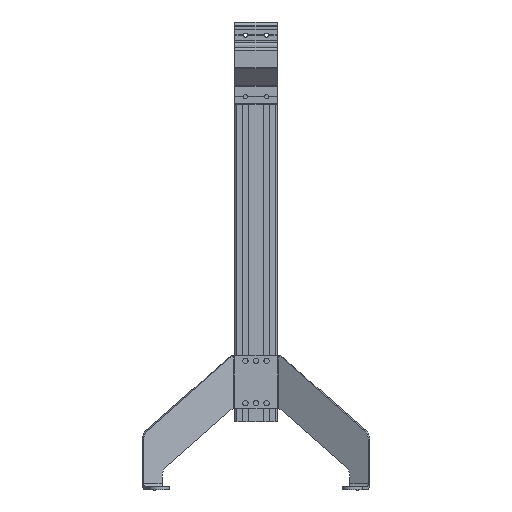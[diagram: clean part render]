
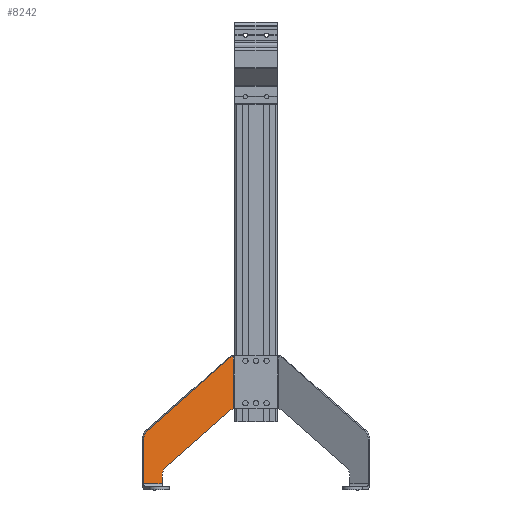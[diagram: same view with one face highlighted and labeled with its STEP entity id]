
A CAD part, left-side view. The second image highlights one B-rep face of the part: STEP entity #8242.
In plain terms, the highlighted planar face has unit normal (-0.866, -0.5, 0) as drawn and (0, 0, -1) by its records, which use the part's own axes.
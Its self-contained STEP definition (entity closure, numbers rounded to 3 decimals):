
#7787=CARTESIAN_POINT('',(44.524,45.482,-2.5));
#7788=VERTEX_POINT('',#7787);
#7997=CARTESIAN_POINT('',(44.524,145.482,-2.5));
#7998=VERTEX_POINT('',#7997);
#8048=CARTESIAN_POINT('',(44.524,45.482,-2.5));
#8049=DIRECTION('',(0.0,1.0,0.0));
#8050=VECTOR('',#8049,100.);
#8051=LINE('',#8048,#8050);
#8052=EDGE_CURVE('',#7788,#7998,#8051,.T.);
#8066=CARTESIAN_POINT('',(52.169,41.872,-2.5));
#8067=VERTEX_POINT('',#8066);
#8068=CARTESIAN_POINT('',(40.0,26.,-2.5));
#8069=DIRECTION('',(0.0,0.0,-1.0));
#8070=DIRECTION('',(-0.608,-0.794,0.0));
#8071=AXIS2_PLACEMENT_3D('',#8068,#8069,#8070);
#8072=CIRCLE('',#8071,20.0);
#8073=EDGE_CURVE('',#7788,#8067,#8072,.T.);
#8168=CARTESIAN_POINT('',(0.,2.612,-2.5));
#8169=DIRECTION('',(0.0,0.0,1.0));
#8170=DIRECTION('',(1.0,0.0,0.0));
#8171=AXIS2_PLACEMENT_3D('',#8168,#8169,#8170);
#8172=PLANE('',#8171);
#8173=ORIENTED_EDGE('',*,*,#8052,.T.);
#8174=CARTESIAN_POINT('',(52.169,141.872,-2.5));
#8175=VERTEX_POINT('',#8174);
#8176=CARTESIAN_POINT('',(40.,126.,-2.5));
#8177=DIRECTION('',(0.0,0.0,1.));
#8178=DIRECTION('',(0.608,0.794,0.0));
#8179=AXIS2_PLACEMENT_3D('',#8176,#8177,#8178);
#8180=CIRCLE('',#8179,20.);
#8181=EDGE_CURVE('',#8175,#7998,#8180,.T.);
#8182=ORIENTED_EDGE('',*,*,#8181,.F.);
#8183=CARTESIAN_POINT('',(232.169,3.872,-2.5));
#8184=VERTEX_POINT('',#8183);
#8185=CARTESIAN_POINT('',(232.169,3.872,-2.5));
#8186=DIRECTION('',(-0.794,0.608,0.0));
#8187=VECTOR('',#8186,226.813);
#8188=LINE('',#8185,#8187);
#8189=EDGE_CURVE('',#8184,#8175,#8188,.T.);
#8190=ORIENTED_EDGE('',*,*,#8189,.F.);
#8191=CARTESIAN_POINT('',(240.0,-12.,-2.5));
#8192=VERTEX_POINT('',#8191);
#8193=CARTESIAN_POINT('',(220.,-12.,-2.5));
#8194=DIRECTION('',(0.0,0.0,1.0));
#8195=DIRECTION('',(1.0,0.0,0.0));
#8196=AXIS2_PLACEMENT_3D('',#8193,#8194,#8195);
#8197=CIRCLE('',#8196,20.0);
#8198=EDGE_CURVE('',#8192,#8184,#8197,.T.);
#8199=ORIENTED_EDGE('',*,*,#8198,.F.);
#8200=CARTESIAN_POINT('',(240.0,-96.,-2.5));
#8201=VERTEX_POINT('',#8200);
#8202=CARTESIAN_POINT('',(240.0,-96.,-2.5));
#8203=DIRECTION('',(0.0,1.0,0.0));
#8204=VECTOR('',#8203,84.);
#8205=LINE('',#8202,#8204);
#8206=EDGE_CURVE('',#8201,#8192,#8205,.T.);
#8207=ORIENTED_EDGE('',*,*,#8206,.F.);
#8208=CARTESIAN_POINT('',(200.,-96.,-2.5));
#8209=VERTEX_POINT('',#8208);
#8210=CARTESIAN_POINT('',(240.0,-96.,-2.5));
#8211=DIRECTION('',(-1.0,0.0,0.0));
#8212=VECTOR('',#8211,40.);
#8213=LINE('',#8210,#8212);
#8214=EDGE_CURVE('',#8201,#8209,#8213,.T.);
#8215=ORIENTED_EDGE('',*,*,#8214,.T.);
#8216=CARTESIAN_POINT('',(200.,-81.333,-2.5));
#8217=VERTEX_POINT('',#8216);
#8218=CARTESIAN_POINT('',(200.,-81.333,-2.5));
#8219=DIRECTION('',(0.0,-1.0,0.0));
#8220=VECTOR('',#8219,14.667);
#8221=LINE('',#8218,#8220);
#8222=EDGE_CURVE('',#8217,#8209,#8221,.T.);
#8223=ORIENTED_EDGE('',*,*,#8222,.F.);
#8224=CARTESIAN_POINT('',(192.169,-65.461,-2.5));
#8225=VERTEX_POINT('',#8224);
#8226=CARTESIAN_POINT('',(180.,-81.333,-2.5));
#8227=DIRECTION('',(0.0,0.0,-1.0));
#8228=DIRECTION('',(-1.0,0.0,0.0));
#8229=AXIS2_PLACEMENT_3D('',#8226,#8227,#8228);
#8230=CIRCLE('',#8229,20.0);
#8231=EDGE_CURVE('',#8225,#8217,#8230,.T.);
#8232=ORIENTED_EDGE('',*,*,#8231,.F.);
#8233=CARTESIAN_POINT('',(52.169,41.872,-2.5));
#8234=DIRECTION('',(0.794,-0.608,0.0));
#8235=VECTOR('',#8234,176.41);
#8236=LINE('',#8233,#8235);
#8237=EDGE_CURVE('',#8067,#8225,#8236,.T.);
#8238=ORIENTED_EDGE('',*,*,#8237,.F.);
#8239=ORIENTED_EDGE('',*,*,#8073,.F.);
#8240=EDGE_LOOP('',(#8173,#8182,#8190,#8199,#8207,#8215,#8223,#8232,#8238,#8239));
#8241=FACE_OUTER_BOUND('',#8240,.T.);
#8242=ADVANCED_FACE('',(#8241),#8172,.F.);
